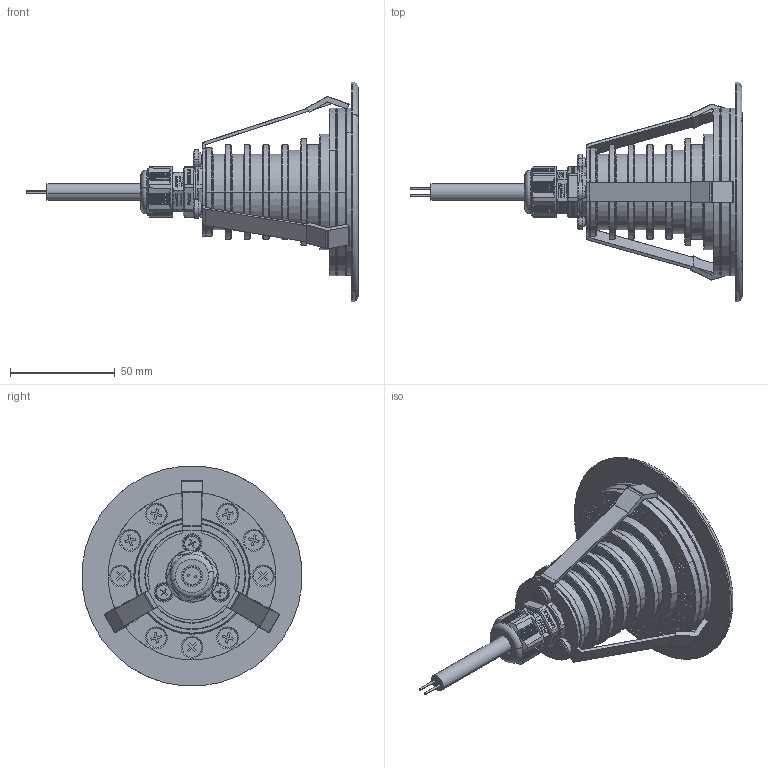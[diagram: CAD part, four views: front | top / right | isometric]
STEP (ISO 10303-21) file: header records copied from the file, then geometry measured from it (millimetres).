
FILE_DESCRIPTION (( 'STEP AP203' ), '1' );
FILE_NAME ('GROUND-STANDARD-PREMIUM-RD2.STEP', '2023-03-17T06:04:15', ( '' ), ( '' ), 'SwSTEP 2.0', 'SolidWorks 2017', '' );
FILE_SCHEMA (( 'CONFIG_CONTROL_DESIGN' ));
Length unit declared in the file: millimetre
Products named in the file (26): GROUND-STANDARD-PREMIUM-RD2; CableGlandTopM16x1,5; PRZEWOD 2_5; gla-35_asm_4; DK140202DD14_1; DK140202DD02_4; CableGlandM16x1,5; screwM4x6_DIN7985; DK160302GB23; DK140202DD06_4; DK160302GB26; M1610B_5; DK160302GB24; DK160302GB04; elplroundhl_3; DK160302DD34; DK160302GB07; izolacja; DK160302GB12; DK160302MZ50; DK160302GB25; XBDhl; SCREW__M5x12_ISO7046_1; DK140202DD08_3; DK160302DD35
Assembly tree (44 placements, depth 3):
  GROUND-STANDARD-PREMIUM-RD2
    DK160302GB23
    DK160302DD35
    DK160302GB12
      DK160302GB07
      izolacja  x3
    DK140202DD06_4
    DK140202DD02_4
    DK160302MZ50
      DK160302DD34
    CableGlandM16x1,5
      CableGlandM16x1,5
      CableGlandTopM16x1,5
    SCREW__M5x12_ISO7046_1  x12
    screwM4x6_DIN7985  x3
    DK140202DD08_3
      elplroundhl_3
      XBDhl  x3
    DK160302GB24
    DK160302GB04
    DK140202DD14_1  x3
    DK160302GB25
    DK160302GB26
    M1610B_5
    PRZEWOD 2_5
    gla-35_asm_4
Bounding box: 158.15 x 104.62 x 104.6 mm (x, y, z)
Volume: 139836.1 mm3; surface area: 114109.1 mm2
Topology: 39 solids, 70 shells, 2250 faces, 5821 edges, 3781 vertices
Faces by surface type: plane 1144, bspline 442, cylinder 417, cone 236, torus 8, sphere 3
Entity records: 72549 total; most frequent: CARTESIAN_POINT 26804, ORIENTED_EDGE 9464, DIRECTION 7468, EDGE_CURVE 4766, VERTEX_POINT 3112, LINE 2528, VECTOR 2528, AXIS2_PLACEMENT_3D 2470
